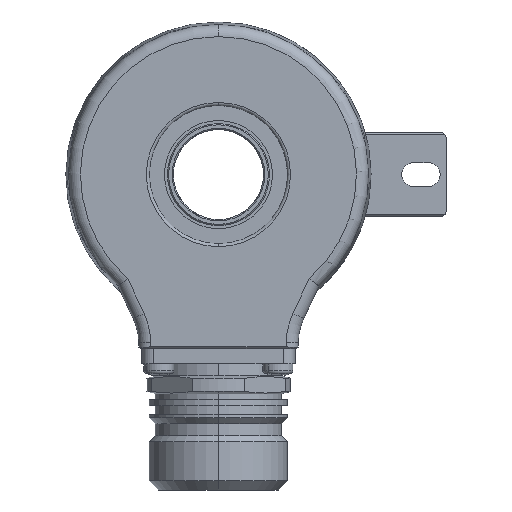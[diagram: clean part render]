
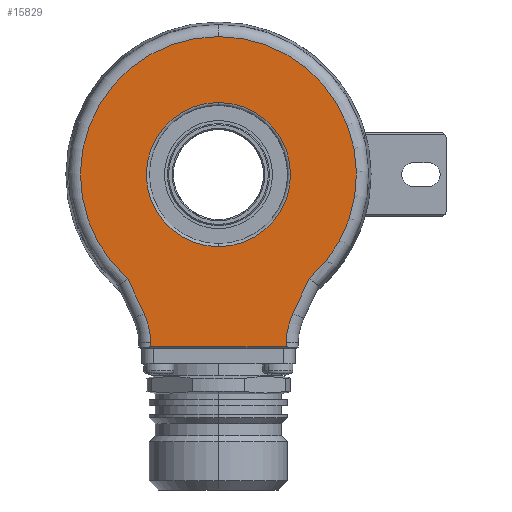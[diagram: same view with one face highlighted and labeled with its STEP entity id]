
A CAD part, left-side view. The second image highlights one B-rep face of the part: STEP entity #15829.
In plain terms, the highlighted planar face has unit normal (-1, 0, 0).
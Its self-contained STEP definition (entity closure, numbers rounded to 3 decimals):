
#167 = ORIENTED_EDGE ( 'NONE', *, *, #11977, .T. ) ;
#260 = VERTEX_POINT ( 'NONE', #7056 ) ;
#263 = EDGE_CURVE ( 'NONE', #260, #14749, #7050, .T. ) ;
#266 = EDGE_CURVE ( 'NONE', #784, #4989, #7045, .T. ) ;
#639 = VERTEX_POINT ( 'NONE', #8303 ) ;
#682 = VERTEX_POINT ( 'NONE', #8468 ) ;
#705 = VERTEX_POINT ( 'NONE', #8582 ) ;
#708 = EDGE_CURVE ( 'NONE', #1404, #11345, #8573, .T. ) ;
#779 = EDGE_CURVE ( 'NONE', #639, #705, #8792, .T. ) ;
#784 = VERTEX_POINT ( 'NONE', #8779 ) ;
#1028 = EDGE_CURVE ( 'NONE', #682, #639, #9868, .T. ) ;
#1404 = VERTEX_POINT ( 'NONE', #9586 ) ;
#1474 = EDGE_CURVE ( 'NONE', #11345, #1648, #9632, .T. ) ;
#1648 = VERTEX_POINT ( 'NONE', #9667 ) ;
#2099 = EDGE_CURVE ( 'NONE', #1648, #682, #9723, .T. ) ;
#3334 = DIRECTION ( 'NONE',  ( 0., 0., 1. ) ) ;
#3335 = DIRECTION ( 'NONE',  ( 1., 0., 0. ) ) ;
#3336 = CARTESIAN_POINT ( 'NONE',  ( -21., 23.266, -28.183 ) ) ;
#3337 = AXIS2_PLACEMENT_3D ( 'NONE', #3336, #3335, #3334 ) ;
#3338 = CIRCLE ( 'NONE', #3337, 12. ) ;
#3752 = CARTESIAN_POINT ( 'NONE',  ( -21., 0., -12. ) ) ;
#3937 = DIRECTION ( 'NONE',  ( 0., 0., 1. ) ) ;
#3938 = DIRECTION ( 'NONE',  ( 1., 0., 0. ) ) ;
#3939 = CARTESIAN_POINT ( 'NONE',  ( -21., 0., 0. ) ) ;
#3940 = AXIS2_PLACEMENT_3D ( 'NONE', #3939, #3938, #3937 ) ;
#3941 = CIRCLE ( 'NONE', #3940, 12. ) ;
#3972 = FACE_OUTER_BOUND ( 'NONE', #15857, .T. ) ;
#3973 = FACE_BOUND ( 'NONE', #15813, .T. ) ;
#4009 = DIRECTION ( 'NONE',  ( 0., -0.017, 1. ) ) ;
#4010 = VECTOR ( 'NONE', #4009, 1000. ) ;
#4011 = CARTESIAN_POINT ( 'NONE',  ( -21., -11.752, -0.205 ) ) ;
#4012 = LINE ( 'NONE', #4011, #4010 ) ;
#4014 = DIRECTION ( 'NONE',  ( 0., 0., 1. ) ) ;
#4015 = DIRECTION ( 'NONE',  ( 1., 0., 0. ) ) ;
#4016 = CARTESIAN_POINT ( 'NONE',  ( -21., 0., 0. ) ) ;
#4017 = AXIS2_PLACEMENT_3D ( 'NONE', #4016, #4015, #4014 ) ;
#4018 = PLANE ( 'NONE',  #4017 ) ;
#4982 = VERTEX_POINT ( 'NONE', #12819 ) ;
#4989 = VERTEX_POINT ( 'NONE', #12852 ) ;
#5027 = EDGE_CURVE ( 'NONE', #4989, #4982, #12974, .T. ) ;
#7042 = DIRECTION ( 'NONE',  ( 0., -0.017, -1. ) ) ;
#7043 = VECTOR ( 'NONE', #7042, 1000. ) ;
#7044 = CARTESIAN_POINT ( 'NONE',  ( -21., 11.752, -0.205 ) ) ;
#7045 = LINE ( 'NONE', #7044, #7043 ) ;
#7046 = DIRECTION ( 'NONE',  ( 0., 0., 1. ) ) ;
#7047 = DIRECTION ( 'NONE',  ( 1., 0., 0. ) ) ;
#7048 = CARTESIAN_POINT ( 'NONE',  ( -21., 0., 0. ) ) ;
#7049 = AXIS2_PLACEMENT_3D ( 'NONE', #7048, #7047, #7046 ) ;
#7050 = CIRCLE ( 'NONE', #7049, 12. ) ;
#7056 = CARTESIAN_POINT ( 'NONE',  ( -21., 0., 12. ) ) ;
#8303 = CARTESIAN_POINT ( 'NONE',  ( -21., 15.091, -17.32 ) ) ;
#8468 = CARTESIAN_POINT ( 'NONE',  ( -21., 0., 22.972 ) ) ;
#8569 = DIRECTION ( 'NONE',  ( 0., 0., 1. ) ) ;
#8570 = DIRECTION ( 'NONE',  ( 1., 0., 0. ) ) ;
#8571 = CARTESIAN_POINT ( 'NONE',  ( -21., -23.266, -28.183 ) ) ;
#8572 = AXIS2_PLACEMENT_3D ( 'NONE', #8571, #8570, #8569 ) ;
#8573 = CIRCLE ( 'NONE', #8572, 12. ) ;
#8582 = CARTESIAN_POINT ( 'NONE',  ( -21., 12.39, -23.112 ) ) ;
#8779 = CARTESIAN_POINT ( 'NONE',  ( -21., 11.268, -27.974 ) ) ;
#8789 = DIRECTION ( 'NONE',  ( 0., -0.423, -0.906 ) ) ;
#8790 = VECTOR ( 'NONE', #8789, 1000. ) ;
#8791 = CARTESIAN_POINT ( 'NONE',  ( -21., 12.39, -23.112 ) ) ;
#8792 = LINE ( 'NONE', #8791, #8790 ) ;
#9586 = CARTESIAN_POINT ( 'NONE',  ( -21., -11.268, -27.974 ) ) ;
#9629 = DIRECTION ( 'NONE',  ( 0., -0.423, 0.906 ) ) ;
#9630 = VECTOR ( 'NONE', #9629, 1000. ) ;
#9631 = CARTESIAN_POINT ( 'NONE',  ( -21., -14.953, -17.615 ) ) ;
#9632 = LINE ( 'NONE', #9631, #9630 ) ;
#9667 = CARTESIAN_POINT ( 'NONE',  ( -21., -15.091, -17.32 ) ) ;
#9719 = DIRECTION ( 'NONE',  ( 0., 0., 1. ) ) ;
#9720 = DIRECTION ( 'NONE',  ( -1., 0., 0. ) ) ;
#9721 = CARTESIAN_POINT ( 'NONE',  ( -21., 0., 0. ) ) ;
#9722 = AXIS2_PLACEMENT_3D ( 'NONE', #9721, #9720, #9719 ) ;
#9723 = CIRCLE ( 'NONE', #9722, 22.972 ) ;
#9866 = CARTESIAN_POINT ( 'NONE',  ( -21., 0., 0. ) ) ;
#9867 = AXIS2_PLACEMENT_3D ( 'NONE', #9866, #9936, #9935 ) ;
#9868 = CIRCLE ( 'NONE', #9867, 22.972 ) ;
#9935 = DIRECTION ( 'NONE',  ( 0., 0., 1. ) ) ;
#9936 = DIRECTION ( 'NONE',  ( -1., 0., 0. ) ) ;
#11345 = VERTEX_POINT ( 'NONE', #18897 ) ;
#11977 = EDGE_CURVE ( 'NONE', #705, #784, #3338, .T. ) ;
#12819 = CARTESIAN_POINT ( 'NONE',  ( -21., -11.255, -28.695 ) ) ;
#12852 = CARTESIAN_POINT ( 'NONE',  ( -21., 11.255, -28.695 ) ) ;
#12971 = DIRECTION ( 'NONE',  ( 0., -1., 0. ) ) ;
#12972 = VECTOR ( 'NONE', #12971, 1000. ) ;
#12973 = CARTESIAN_POINT ( 'NONE',  ( -21., -11.25, -28.695 ) ) ;
#12974 = LINE ( 'NONE', #12973, #12972 ) ;
#14749 = VERTEX_POINT ( 'NONE', #3752 ) ;
#14810 = ORIENTED_EDGE ( 'NONE', *, *, #708, .T. ) ;
#14969 = ORIENTED_EDGE ( 'NONE', *, *, #2099, .T. ) ;
#15464 = EDGE_CURVE ( 'NONE', #14749, #260, #3941, .T. ) ;
#15813 = EDGE_LOOP ( 'NONE', ( #15934, #15971 ) ) ;
#15829 = ADVANCED_FACE ( 'NONE', ( #3973, #3972 ), #4018, .F. ) ;
#15847 = ORIENTED_EDGE ( 'NONE', *, *, #5027, .T. ) ;
#15857 = EDGE_LOOP ( 'NONE', ( #15970, #15847, #15984, #14810, #16336, #14969, #16257, #16222, #167 ) ) ;
#15881 = EDGE_CURVE ( 'NONE', #4982, #1404, #4012, .T. ) ;
#15934 = ORIENTED_EDGE ( 'NONE', *, *, #263, .T. ) ;
#15970 = ORIENTED_EDGE ( 'NONE', *, *, #266, .T. ) ;
#15971 = ORIENTED_EDGE ( 'NONE', *, *, #15464, .T. ) ;
#15984 = ORIENTED_EDGE ( 'NONE', *, *, #15881, .T. ) ;
#16222 = ORIENTED_EDGE ( 'NONE', *, *, #779, .T. ) ;
#16257 = ORIENTED_EDGE ( 'NONE', *, *, #1028, .T. ) ;
#16336 = ORIENTED_EDGE ( 'NONE', *, *, #1474, .T. ) ;
#18897 = CARTESIAN_POINT ( 'NONE',  ( -21., -12.39, -23.112 ) ) ;
